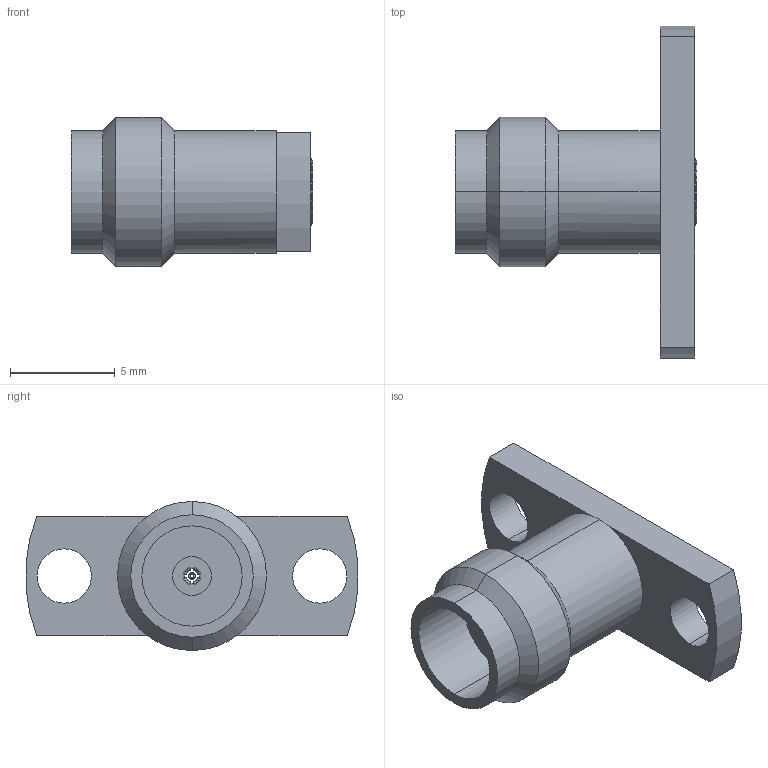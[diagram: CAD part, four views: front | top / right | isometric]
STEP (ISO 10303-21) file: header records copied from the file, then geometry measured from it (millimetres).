
FILE_DESCRIPTION (( 'STEP AP203' ), '1' );
FILE_NAME ('SF3321-60003.STEP', '2017-04-06T12:39:14', ( 'user' ), ( '' ), 'SwSTEP 2.0', 'SolidWorks 2016', '' );
FILE_SCHEMA (( 'CONFIG_CONTROL_DESIGN' ));
Length unit declared in the file: inch
Products named in the file (5): BODY FOR SF3321-60003; FERRULE FOR SF3321-60003; CONTACT FOR SF3321-60003; 244-33-004; SF3321-60003
Assembly tree (3 placements, depth 2):
  244-33-004
  SF3321-60003
    BODY FOR SF3321-60003
    FERRULE FOR SF3321-60003
    CONTACT FOR SF3321-60003
Bounding box: 11.53 x 15.83 x 7.11 mm (x, y, z)
Volume: 255.3 mm3; surface area: 654.9 mm2
Topology: 8 solids, 8 shells, 92 faces, 202 edges, 130 vertices
Faces by surface type: cylinder 40, plane 40, cone 12
Entity records: 3081 total; most frequent: CARTESIAN_POINT 487, DIRECTION 478, ORIENTED_EDGE 404, EDGE_CURVE 202, AXIS2_PLACEMENT_3D 190, VERTEX_POINT 130, EDGE_LOOP 104, LINE 98
